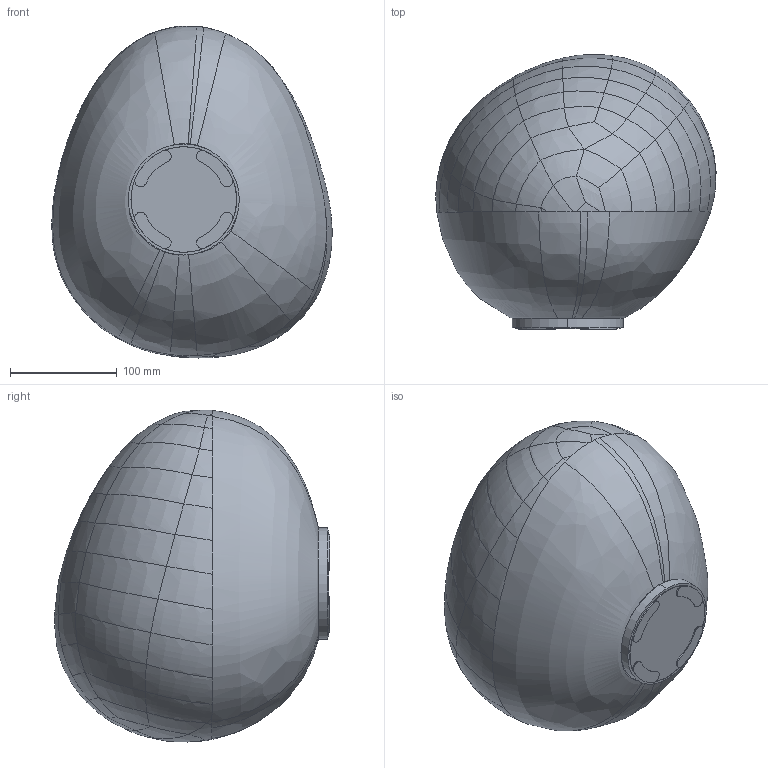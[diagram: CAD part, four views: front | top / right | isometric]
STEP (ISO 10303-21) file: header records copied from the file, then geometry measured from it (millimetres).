
FILE_DESCRIPTION (( 'STEP AP203' ), '1' );
FILE_NAME ('168_MEDIA_WC_ME_3D.STEP', '2022-08-24T06:39:22', ( '' ), ( '' ), 'SwSTEP 2.0', 'SolidWorks 2022', '' );
FILE_SCHEMA (( 'CONFIG_CONTROL_DESIGN' ));
Products named in the file (1): 168_MEDIA_WC_ME_3D
Bounding box: 262.46 x 257.79 x 311.02 mm (x, y, z)
Volume: 706904.5 mm3; surface area: 480927.8 mm2
Topology: 2 solids, 2 shells, 274 faces, 649 edges, 383 vertices
Faces by surface type: bspline 230, cylinder 34, plane 10
Entity records: 279039 total; most frequent: CARTESIAN_POINT 274484, ORIENTED_EDGE 1298, EDGE_CURVE 649, B_SPLINE_CURVE_WITH_KNOTS 555, VERTEX_POINT 383, EDGE_LOOP 278, FACE_OUTER_BOUND 274, ADVANCED_FACE 274
